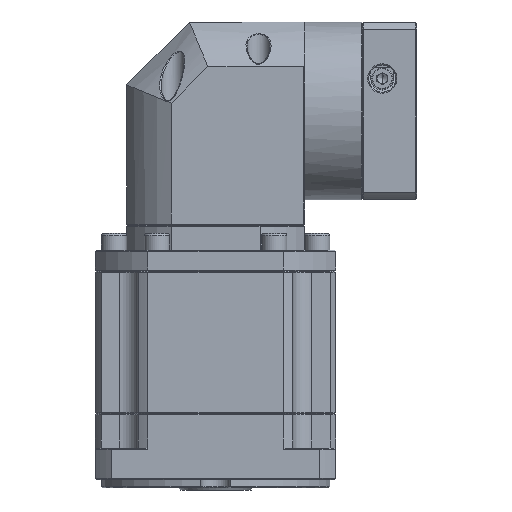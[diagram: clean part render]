
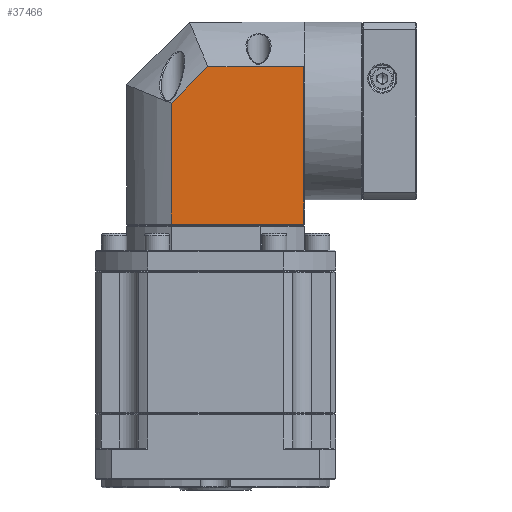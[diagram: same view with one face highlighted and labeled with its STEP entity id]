
A CAD part, front view. The second image highlights one B-rep face of the part: STEP entity #37466.
In plain terms, the highlighted planar face has unit normal (0, -1, 0).
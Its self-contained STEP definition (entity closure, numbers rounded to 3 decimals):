
#4800 = DIRECTION ( 'NONE',  ( 0.707, 0., 0.707 ) ) ;
#8686 = VECTOR ( 'NONE', #174984, 1000. ) ;
#14065 = VERTEX_POINT ( 'NONE', #97737 ) ;
#18163 = EDGE_CURVE ( 'NONE', #14065, #173359, #118420, .T. ) ;
#24618 = EDGE_CURVE ( 'NONE', #61469, #98532, #43340, .T. ) ;
#25416 = ORIENTED_EDGE ( 'NONE', *, *, #39935, .F. ) ;
#25462 = DIRECTION ( 'NONE',  ( 1., 0., 0. ) ) ;
#28202 = DIRECTION ( 'NONE',  ( 0., 0., -1. ) ) ;
#32402 = CARTESIAN_POINT ( 'NONE',  ( 25.319, 106.509, 53.318 ) ) ;
#37198 = CARTESIAN_POINT ( 'NONE',  ( 25.319, 106.509, 92.135 ) ) ;
#37241 = VECTOR ( 'NONE', #4800, 1000. ) ;
#37466 = ADVANCED_FACE ( 'NONE', ( #131401 ), #101862, .F. ) ;
#39935 = EDGE_CURVE ( 'NONE', #98532, #74960, #136360, .T. ) ;
#43340 = LINE ( 'NONE', #58380, #80021 ) ;
#50093 = ORIENTED_EDGE ( 'NONE', *, *, #69497, .T. ) ;
#58380 = CARTESIAN_POINT ( 'NONE',  ( 89.032, 106.509, 70.848 ) ) ;
#59492 = CARTESIAN_POINT ( 'NONE',  ( 42.85, 106.509, 70.848 ) ) ;
#61469 = VERTEX_POINT ( 'NONE', #59492 ) ;
#63223 = VECTOR ( 'NONE', #28202, 1000. ) ;
#65869 = ORIENTED_EDGE ( 'NONE', *, *, #24618, .F. ) ;
#69497 = EDGE_CURVE ( 'NONE', #14065, #74960, #171334, .T. ) ;
#69560 = LINE ( 'NONE', #32402, #37241 ) ;
#72254 = DIRECTION ( 'NONE',  ( 1., 0., 0. ) ) ;
#74786 = DIRECTION ( 'NONE',  ( 0., 1., 0. ) ) ;
#74960 = VERTEX_POINT ( 'NONE', #102415 ) ;
#80021 = VECTOR ( 'NONE', #72254, 1000. ) ;
#97737 = CARTESIAN_POINT ( 'NONE',  ( 25.319, 106.509, -4.365 ) ) ;
#98532 = VERTEX_POINT ( 'NONE', #159867 ) ;
#99990 = EDGE_CURVE ( 'NONE', #173359, #61469, #69560, .T. ) ;
#101862 = PLANE ( 'NONE',  #149153 ) ;
#102415 = CARTESIAN_POINT ( 'NONE',  ( 88.532, 106.509, -4.365 ) ) ;
#118420 = LINE ( 'NONE', #37198, #8686 ) ;
#131401 = FACE_OUTER_BOUND ( 'NONE', #141051, .T. ) ;
#134658 = VECTOR ( 'NONE', #25462, 1000. ) ;
#136360 = LINE ( 'NONE', #178626, #63223 ) ;
#141051 = EDGE_LOOP ( 'NONE', ( #50093, #25416, #65869, #165279, #148622 ) ) ;
#148622 = ORIENTED_EDGE ( 'NONE', *, *, #18163, .F. ) ;
#149153 = AXIS2_PLACEMENT_3D ( 'NONE', #157194, #74786, #170989 ) ;
#157194 = CARTESIAN_POINT ( 'NONE',  ( 89.032, 106.509, 92.135 ) ) ;
#159867 = CARTESIAN_POINT ( 'NONE',  ( 88.532, 106.509, 70.848 ) ) ;
#164385 = CARTESIAN_POINT ( 'NONE',  ( 89.032, 106.509, -4.365 ) ) ;
#165279 = ORIENTED_EDGE ( 'NONE', *, *, #99990, .F. ) ;
#170989 = DIRECTION ( 'NONE',  ( -1., 0., 0. ) ) ;
#171334 = LINE ( 'NONE', #164385, #134658 ) ;
#173359 = VERTEX_POINT ( 'NONE', #175654 ) ;
#174984 = DIRECTION ( 'NONE',  ( 0., 0., 1. ) ) ;
#175654 = CARTESIAN_POINT ( 'NONE',  ( 25.319, 106.509, 53.318 ) ) ;
#178626 = CARTESIAN_POINT ( 'NONE',  ( 88.532, 106.509, 92.135 ) ) ;
